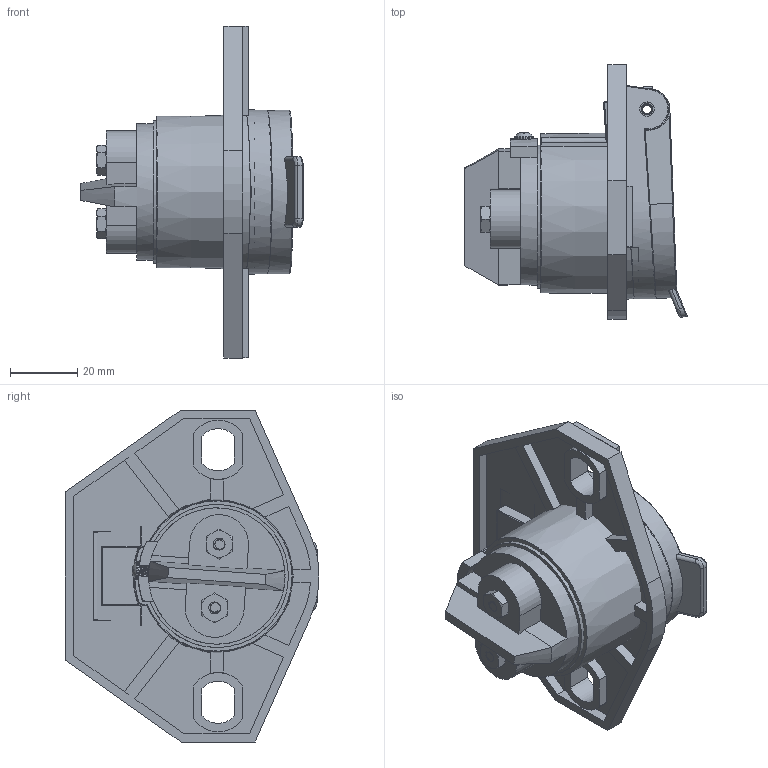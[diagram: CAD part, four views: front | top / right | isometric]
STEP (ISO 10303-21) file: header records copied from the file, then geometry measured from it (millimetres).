
FILE_DESCRIPTION(/* description */ (''),/* implementation_level */ '2;1');
FILE_NAME(/* name */ 'C:\Users\Hani\Desktop\work\TC2H-SE2-Z\TC2H-SE2-Z.stp',/* time_stamp */ '2020-03-22T18:05:09-07:00',/* author */ ('Hani'),/* organization */ (''),/* preprocessor_version */ 'ST-DEVELOPER v17',/* originating_system */ 'Autodesk Inventor 2019',/* authorisation */ '');
FILE_SCHEMA (('AUTOMOTIVE_DESIGN { 1 0 10303 214 3 1 1 }'));
Products named in the file (9): socket; COVER; HOUSING; PIN; SPRING; terminal_base; terminal screws; terminal screws_MIR; screw2
Assembly tree (8 placements, depth 2):
  socket
    COVER
    HOUSING
    PIN
    SPRING
    terminal_base
    terminal screws
    terminal screws_MIR
    screw2
Bounding box: 65.98 x 75.4 x 98.6 mm (x, y, z)
Volume: 69827.6 mm3; surface area: 58940.6 mm2
Topology: 13 solids, 13 shells, 750 faces, 2066 edges, 1343 vertices
Faces by surface type: plane 377, cylinder 215, bspline 99, cone 46, torus 8, sphere 5
Full cylindrical faces by diameter (mm): 1.1 x2, 1.935 x5, 2.286 x4, 2.474 x28, 2.6 x1, 3 x3, 3.2 x2, 3.505 x30, 3.508 x2, 3.556 x2, 4.064 x2, 4.25 x1, 4.75 x4, 5.563 x1, 5.715 x2, 6.35 x2, 42.5 x1
Entity records: 44786 total; most frequent: CARTESIAN_POINT 26453, ORIENTED_EDGE 4126, DIRECTION 3281, EDGE_CURVE 2063, VERTEX_POINT 1343, AXIS2_PLACEMENT_3D 1097, LINE 1087, VECTOR 1087
